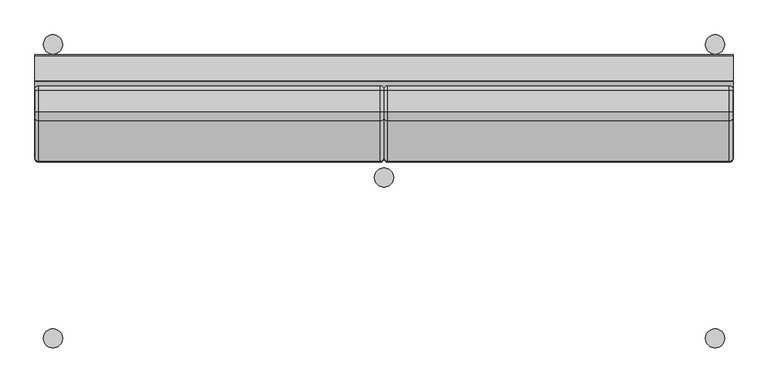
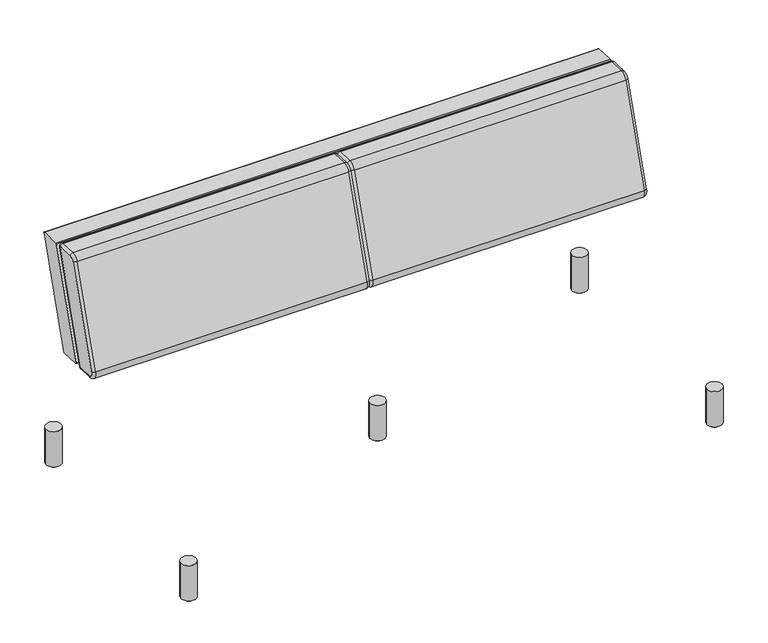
"""IFC4 building model written with IfcOpenShell, lengths in millimetres: furniture geometry, Krug-Amelio-Sleep_Sofa : AME6SL74FALS2."""

from ifc_helpers import new_model, si_unit, point, frame, frame_2d, origin, place, context, project, spatial, polyline, circle_curve, ellipse_curve, trimmed, segment, composite_curve, outline, extrude, source, transform, mapped, element, save
from ifc_brep_helpers import plane_surface, cylinder_surface, revolved_surface, advanced_brep


def furniture_d6359fc4(model_context):
    return source(origin(), model_context, "Body", "SolidModel", [
        advanced_brep(
        [(943.9358697, -451.0753328, 10.4207023), (935.6641303, -451.0753328, 10.4207023), (939.8, -451.0753328, 10.4207023), (943.9358697, -451.0753328, 6.7592646), (935.6641303, -451.0753328, 6.7592646), (952.931508, -451.0753328, 3.48512), (926.668492, -451.0753328, 3.48512), (951.663028, -451.0753328, 0.0), (927.936972, -451.0753328, 0.0), (939.8, -451.0753328, 0.0)],
        [
            (0, 1, circle_curve(frame((939.8, -451.0753328, 10.4207023), z_axis=(0.0, 0.0, 1.0), x_axis=(-1.0, 0.0, 0.0)), 4.1358697)),
            (1, 2),
            (2, 0),
            (1, 0, circle_curve(frame((939.8, -451.0753328, 10.4207023), z_axis=(0.0, 0.0, 1.0), x_axis=(-1.0, 0.0, 0.0)), 4.1358697)),
            (3, 4, circle_curve(frame((939.8, -451.0753328, 6.7592646), z_axis=(0.0, 0.0, 1.0), x_axis=(-1.0, 0.0, 0.0)), 4.1358697)),
            (4, 1),
            (0, 3),
            (4, 3, circle_curve(frame((939.8, -451.0753328, 6.7592646), z_axis=(0.0, 0.0, 1.0), x_axis=(-1.0, 0.0, 0.0)), 4.1358697)),
            (5, 6, circle_curve(frame((939.8, -451.0753328, 3.48512), z_axis=(0.0, 0.0, 1.0), x_axis=(-1.0, 0.0, 0.0)), 13.131508)),
            (6, 4),
            (3, 5),
            (6, 5, circle_curve(frame((939.8, -451.0753328, 3.48512), z_axis=(0.0, 0.0, 1.0), x_axis=(-1.0, 0.0, 0.0)), 13.131508)),
            (7, 8, circle_curve(frame((939.8, -451.0753328, 0.0), z_axis=(0.0, 0.0, 1.0), x_axis=(-1.0, 0.0, 0.0)), 11.863028)),
            (8, 6),
            (5, 7),
            (8, 7, circle_curve(frame((939.8, -451.0753328, 0.0), z_axis=(0.0, 0.0, 1.0), x_axis=(-1.0, 0.0, 0.0)), 11.863028)),
            (9, 8),
            (7, 9),
        ],
        [
            plane_surface(frame((939.8, -451.0753328, 10.4207023), z_axis=(0.0, 0.0, 1.0), x_axis=(-1.0, 0.0, 0.0))),
            cylinder_surface(frame((939.8, -451.0753328, 4.0728589), z_axis=(0.0, 0.0, -1.0), x_axis=(-1.0, 0.0, 0.0)), 4.1358697),
            revolved_surface(polyline([(935.6641303, -451.0753328, 6.7592646), (926.668492, -451.0753328, 3.48512)]), (939.8, -451.0753328, 4.0728589), (0.0, 0.0, -1.0)),
            revolved_surface(polyline([(926.668492, -451.0753328, 3.48512), (927.936972, -451.0753328, 0.0)]), (939.8, -451.0753328, 4.0728589), (0.0, 0.0, -1.0)),
            plane_surface(frame((939.8, -451.0753328, 0.0), z_axis=(0.0, 0.0, -1.0), x_axis=(-1.0, 0.0, 0.0))),
        ],
        [
            (0, [[1, 2, 3]]),
            (0, [[4, -3, -2]]),
            (1, [[5, 6, -1, 7]]),
            (1, [[8, -7, -4, -6]]),
            (2, [[9, 10, -5, 11]]),
            (2, [[12, -11, -8, -10]]),
            (3, [[13, 14, -9, 15]]),
            (3, [[16, -15, -12, -14]]),
            (4, [[17, -13, 18]]),
            (4, [[-18, -16, -17]]),
        ],
    ),
        extrude(outline(composite_curve([segment(trimmed(circle_curve(frame_2d((939.8, -451.1316432)), 25.4), [point((914.4, -451.1316432))], [point((965.2, -451.1316432))], False, "CARTESIAN"), True, "CONTINUOUS"), segment(trimmed(circle_curve(frame_2d((939.8, -451.1316432)), 25.4), [point((965.2, -451.1316432))], [point((914.4, -451.1316432))], False, "CARTESIAN"), True, "CONTINUOUS")], self_intersect=False)), frame((0.0, 0.0, 10.4207023), z_axis=(0.0, 0.0, 1.0), x_axis=(1.0, 0.0, 0.0)), (0.0, 0.0, 1.0), 124.5167977),
        advanced_brep(
        [(1820.2360983, -98.4406846, 10.4207023), (1811.9643589, -98.4406846, 10.4207023), (1816.1002286, -98.4406846, 10.4207023), (1820.2360983, -98.4406846, 6.7592646), (1811.9643589, -98.4406846, 6.7592646), (1829.2317366, -98.4406846, 3.48512), (1802.9687206, -98.4406846, 3.48512), (1827.9632566, -98.4406846, 0.0), (1804.2372006, -98.4406846, 0.0), (1816.1002286, -98.4406846, 0.0)],
        [
            (0, 1, circle_curve(frame((1816.1002286, -98.4406846, 10.4207023), z_axis=(0.0, 0.0, 1.0), x_axis=(-1.0, 0.0, 0.0)), 4.1358697)),
            (1, 2),
            (2, 0),
            (1, 0, circle_curve(frame((1816.1002286, -98.4406846, 10.4207023), z_axis=(0.0, 0.0, 1.0), x_axis=(-1.0, 0.0, 0.0)), 4.1358697)),
            (3, 4, circle_curve(frame((1816.1002286, -98.4406846, 6.7592646), z_axis=(0.0, 0.0, 1.0), x_axis=(-1.0, 0.0, 0.0)), 4.1358697)),
            (4, 1),
            (0, 3),
            (4, 3, circle_curve(frame((1816.1002286, -98.4406846, 6.7592646), z_axis=(0.0, 0.0, 1.0), x_axis=(-1.0, 0.0, 0.0)), 4.1358697)),
            (5, 6, circle_curve(frame((1816.1002286, -98.4406846, 3.48512), z_axis=(0.0, 0.0, 1.0), x_axis=(-1.0, 0.0, 0.0)), 13.131508)),
            (6, 4),
            (3, 5),
            (6, 5, circle_curve(frame((1816.1002286, -98.4406846, 3.48512), z_axis=(0.0, 0.0, 1.0), x_axis=(-1.0, 0.0, 0.0)), 13.131508)),
            (7, 8, circle_curve(frame((1816.1002286, -98.4406846, 0.0), z_axis=(0.0, 0.0, 1.0), x_axis=(-1.0, 0.0, 0.0)), 11.863028)),
            (8, 6),
            (5, 7),
            (8, 7, circle_curve(frame((1816.1002286, -98.4406846, 0.0), z_axis=(0.0, 0.0, 1.0), x_axis=(-1.0, 0.0, 0.0)), 11.863028)),
            (9, 8),
            (7, 9),
        ],
        [
            plane_surface(frame((1816.1002286, -98.4406846, 10.4207023), z_axis=(0.0, 0.0, 1.0), x_axis=(-1.0, 0.0, 0.0))),
            cylinder_surface(frame((1816.1002286, -98.4406846, 4.0728589), z_axis=(0.0, 0.0, -1.0), x_axis=(-1.0, 0.0, 0.0)), 4.1358697),
            revolved_surface(polyline([(1811.9643589, -98.4406846, 6.7592646), (1802.9687206, -98.4406846, 3.48512)]), (1816.1002286, -98.4406846, 4.0728589), (0.0, 0.0, -1.0)),
            revolved_surface(polyline([(1802.9687206, -98.4406846, 3.48512), (1804.2372006, -98.4406846, 0.0)]), (1816.1002286, -98.4406846, 4.0728589), (0.0, 0.0, -1.0)),
            plane_surface(frame((1816.1002286, -98.4406846, 0.0), z_axis=(0.0, 0.0, -1.0), x_axis=(-1.0, 0.0, 0.0))),
        ],
        [
            (0, [[1, 2, 3]]),
            (0, [[4, -3, -2]]),
            (1, [[5, 6, -1, 7]]),
            (1, [[8, -7, -4, -6]]),
            (2, [[9, 10, -5, 11]]),
            (2, [[12, -11, -8, -10]]),
            (3, [[13, 14, -9, 15]]),
            (3, [[16, -15, -12, -14]]),
            (4, [[17, -13, 18]]),
            (4, [[-18, -16, -17]]),
        ],
    ),
        extrude(outline(composite_curve([segment(trimmed(circle_curve(frame_2d((1816.1002286, -98.4969949)), 25.4), [point((1790.7002286, -98.4969949))], [point((1841.5002286, -98.4969949))], False, "CARTESIAN"), True, "CONTINUOUS"), segment(trimmed(circle_curve(frame_2d((1816.1002286, -98.4969949)), 25.4), [point((1841.5002286, -98.4969949))], [point((1790.7002286, -98.4969949))], False, "CARTESIAN"), True, "CONTINUOUS")], self_intersect=False)), frame((0.0, 0.0, 10.4207023), z_axis=(0.0, 0.0, 1.0), x_axis=(1.0, 0.0, 0.0)), (0.0, 0.0, 1.0), 124.5167977),
        advanced_brep(
        [(67.6356411, -98.4406846, 10.4207023), (59.3639017, -98.4406846, 10.4207023), (63.4997714, -98.4406846, 10.4207023), (67.6356411, -98.4406846, 6.7592646), (59.3639017, -98.4406846, 6.7592646), (76.6312794, -98.4406846, 3.48512), (50.3682634, -98.4406846, 3.48512), (75.3627994, -98.4406846, 0.0), (51.6367434, -98.4406846, 0.0), (63.4997714, -98.4406846, 0.0)],
        [
            (0, 1, circle_curve(frame((63.4997714, -98.4406846, 10.4207023), z_axis=(0.0, 0.0, 1.0), x_axis=(-1.0, 0.0, 0.0)), 4.1358697)),
            (1, 2),
            (2, 0),
            (1, 0, circle_curve(frame((63.4997714, -98.4406846, 10.4207023), z_axis=(0.0, 0.0, 1.0), x_axis=(-1.0, 0.0, 0.0)), 4.1358697)),
            (3, 4, circle_curve(frame((63.4997714, -98.4406846, 6.7592646), z_axis=(0.0, 0.0, 1.0), x_axis=(-1.0, 0.0, 0.0)), 4.1358697)),
            (4, 1),
            (0, 3),
            (4, 3, circle_curve(frame((63.4997714, -98.4406846, 6.7592646), z_axis=(0.0, 0.0, 1.0), x_axis=(-1.0, 0.0, 0.0)), 4.1358697)),
            (5, 6, circle_curve(frame((63.4997714, -98.4406846, 3.48512), z_axis=(0.0, 0.0, 1.0), x_axis=(-1.0, 0.0, 0.0)), 13.131508)),
            (6, 4),
            (3, 5),
            (6, 5, circle_curve(frame((63.4997714, -98.4406846, 3.48512), z_axis=(0.0, 0.0, 1.0), x_axis=(-1.0, 0.0, 0.0)), 13.131508)),
            (7, 8, circle_curve(frame((63.4997714, -98.4406846, 0.0), z_axis=(0.0, 0.0, 1.0), x_axis=(-1.0, 0.0, 0.0)), 11.863028)),
            (8, 6),
            (5, 7),
            (8, 7, circle_curve(frame((63.4997714, -98.4406846, 0.0), z_axis=(0.0, 0.0, 1.0), x_axis=(-1.0, 0.0, 0.0)), 11.863028)),
            (9, 8),
            (7, 9),
        ],
        [
            plane_surface(frame((63.4997714, -98.4406846, 10.4207023), z_axis=(0.0, 0.0, 1.0), x_axis=(-1.0, 0.0, 0.0))),
            cylinder_surface(frame((63.4997714, -98.4406846, 4.0728589), z_axis=(0.0, 0.0, -1.0), x_axis=(-1.0, 0.0, 0.0)), 4.1358697),
            revolved_surface(polyline([(59.3639017, -98.4406846, 6.7592646), (50.3682634, -98.4406846, 3.48512)]), (63.4997714, -98.4406846, 4.0728589), (0.0, 0.0, -1.0)),
            revolved_surface(polyline([(50.3682634, -98.4406846, 3.48512), (51.6367434, -98.4406846, 0.0)]), (63.4997714, -98.4406846, 4.0728589), (0.0, 0.0, -1.0)),
            plane_surface(frame((63.4997714, -98.4406846, 0.0), z_axis=(0.0, 0.0, -1.0), x_axis=(-1.0, 0.0, 0.0))),
        ],
        [
            (0, [[1, 2, 3]]),
            (0, [[4, -3, -2]]),
            (1, [[5, 6, -1, 7]]),
            (1, [[8, -7, -4, -6]]),
            (2, [[9, 10, -5, 11]]),
            (2, [[12, -11, -8, -10]]),
            (3, [[13, 14, -9, 15]]),
            (3, [[16, -15, -12, -14]]),
            (4, [[17, -13, 18]]),
            (4, [[-18, -16, -17]]),
        ],
    ),
        extrude(outline(composite_curve([segment(trimmed(circle_curve(frame_2d((63.4997714, -98.4969949)), 25.4), [point((38.0997714, -98.4969949))], [point((88.8997714, -98.4969949))], False, "CARTESIAN"), True, "CONTINUOUS"), segment(trimmed(circle_curve(frame_2d((63.4997714, -98.4969949)), 25.4), [point((88.8997714, -98.4969949))], [point((38.0997714, -98.4969949))], False, "CARTESIAN"), True, "CONTINUOUS")], self_intersect=False)), frame((0.0, 0.0, 10.4207023), z_axis=(0.0, 0.0, 1.0), x_axis=(1.0, 0.0, 0.0)), (0.0, 0.0, 1.0), 124.5167977),
        advanced_brep(
        [(1820.2360983, -877.4358283, 10.4207023), (1811.9643589, -877.4358283, 10.4207023), (1816.1002286, -877.4358283, 10.4207023), (1820.2360983, -877.4358283, 6.7592646), (1811.9643589, -877.4358283, 6.7592646), (1829.2317366, -877.4358283, 3.48512), (1802.9687206, -877.4358283, 3.48512), (1827.9632566, -877.4358283, 0.0), (1804.2372006, -877.4358283, 0.0), (1816.1002286, -877.4358283, 0.0)],
        [
            (0, 1, circle_curve(frame((1816.1002286, -877.4358283, 10.4207023), z_axis=(0.0, 0.0, 1.0), x_axis=(-1.0, 0.0, 0.0)), 4.1358697)),
            (1, 2),
            (2, 0),
            (1, 0, circle_curve(frame((1816.1002286, -877.4358283, 10.4207023), z_axis=(0.0, 0.0, 1.0), x_axis=(-1.0, 0.0, 0.0)), 4.1358697)),
            (3, 4, circle_curve(frame((1816.1002286, -877.4358283, 6.7592646), z_axis=(0.0, 0.0, 1.0), x_axis=(-1.0, 0.0, 0.0)), 4.1358697)),
            (4, 1),
            (0, 3),
            (4, 3, circle_curve(frame((1816.1002286, -877.4358283, 6.7592646), z_axis=(0.0, 0.0, 1.0), x_axis=(-1.0, 0.0, 0.0)), 4.1358697)),
            (5, 6, circle_curve(frame((1816.1002286, -877.4358283, 3.48512), z_axis=(0.0, 0.0, 1.0), x_axis=(-1.0, 0.0, 0.0)), 13.131508)),
            (6, 4),
            (3, 5),
            (6, 5, circle_curve(frame((1816.1002286, -877.4358283, 3.48512), z_axis=(0.0, 0.0, 1.0), x_axis=(-1.0, 0.0, 0.0)), 13.131508)),
            (7, 8, circle_curve(frame((1816.1002286, -877.4358283, 0.0), z_axis=(0.0, 0.0, 1.0), x_axis=(-1.0, 0.0, 0.0)), 11.863028)),
            (8, 6),
            (5, 7),
            (8, 7, circle_curve(frame((1816.1002286, -877.4358283, 0.0), z_axis=(0.0, 0.0, 1.0), x_axis=(-1.0, 0.0, 0.0)), 11.863028)),
            (9, 8),
            (7, 9),
        ],
        [
            plane_surface(frame((1816.1002286, -877.4358283, 10.4207023), z_axis=(0.0, 0.0, 1.0), x_axis=(-1.0, 0.0, 0.0))),
            cylinder_surface(frame((1816.1002286, -877.4358283, 4.0728589), z_axis=(0.0, 0.0, -1.0), x_axis=(-1.0, 0.0, 0.0)), 4.1358697),
            revolved_surface(polyline([(1811.9643589, -877.4358283, 6.7592646), (1802.9687206, -877.4358283, 3.48512)]), (1816.1002286, -877.4358283, 4.0728589), (0.0, 0.0, -1.0)),
            revolved_surface(polyline([(1802.9687206, -877.4358283, 3.48512), (1804.2372006, -877.4358283, 0.0)]), (1816.1002286, -877.4358283, 4.0728589), (0.0, 0.0, -1.0)),
            plane_surface(frame((1816.1002286, -877.4358283, 0.0), z_axis=(0.0, 0.0, -1.0), x_axis=(-1.0, 0.0, 0.0))),
        ],
        [
            (0, [[1, 2, 3]]),
            (0, [[4, -3, -2]]),
            (1, [[5, 6, -1, 7]]),
            (1, [[8, -7, -4, -6]]),
            (2, [[9, 10, -5, 11]]),
            (2, [[12, -11, -8, -10]]),
            (3, [[13, 14, -9, 15]]),
            (3, [[16, -15, -12, -14]]),
            (4, [[17, -13, 18]]),
            (4, [[-18, -16, -17]]),
        ],
    ),
        extrude(outline(composite_curve([segment(trimmed(circle_curve(frame_2d((1816.1002286, -877.4921386)), 25.4), [point((1790.7002286, -877.4921386))], [point((1841.5002286, -877.4921386))], False, "CARTESIAN"), True, "CONTINUOUS"), segment(trimmed(circle_curve(frame_2d((1816.1002286, -877.4921386)), 25.4), [point((1841.5002286, -877.4921386))], [point((1790.7002286, -877.4921386))], False, "CARTESIAN"), True, "CONTINUOUS")], self_intersect=False)), frame((0.0, 0.0, 10.4207023), z_axis=(0.0, 0.0, 1.0), x_axis=(1.0, 0.0, 0.0)), (0.0, 0.0, 1.0), 124.5167977),
        advanced_brep(
        [(67.6356411, -877.4358283, 10.4207023), (59.3639017, -877.4358283, 10.4207023), (63.4997714, -877.4358283, 10.4207023), (67.6356411, -877.4358283, 6.7592646), (59.3639017, -877.4358283, 6.7592646), (76.6312794, -877.4358283, 3.48512), (50.3682634, -877.4358283, 3.48512), (75.3627994, -877.4358283, 0.0), (51.6367434, -877.4358283, 0.0), (63.4997714, -877.4358283, 0.0)],
        [
            (0, 1, circle_curve(frame((63.4997714, -877.4358283, 10.4207023), z_axis=(0.0, 0.0, 1.0), x_axis=(-1.0, 0.0, 0.0)), 4.1358697)),
            (1, 2),
            (2, 0),
            (1, 0, circle_curve(frame((63.4997714, -877.4358283, 10.4207023), z_axis=(0.0, 0.0, 1.0), x_axis=(-1.0, 0.0, 0.0)), 4.1358697)),
            (3, 4, circle_curve(frame((63.4997714, -877.4358283, 6.7592646), z_axis=(0.0, 0.0, 1.0), x_axis=(-1.0, 0.0, 0.0)), 4.1358697)),
            (4, 1),
            (0, 3),
            (4, 3, circle_curve(frame((63.4997714, -877.4358283, 6.7592646), z_axis=(0.0, 0.0, 1.0), x_axis=(-1.0, 0.0, 0.0)), 4.1358697)),
            (5, 6, circle_curve(frame((63.4997714, -877.4358283, 3.48512), z_axis=(0.0, 0.0, 1.0), x_axis=(-1.0, 0.0, 0.0)), 13.131508)),
            (6, 4),
            (3, 5),
            (6, 5, circle_curve(frame((63.4997714, -877.4358283, 3.48512), z_axis=(0.0, 0.0, 1.0), x_axis=(-1.0, 0.0, 0.0)), 13.131508)),
            (7, 8, circle_curve(frame((63.4997714, -877.4358283, 0.0), z_axis=(0.0, 0.0, 1.0), x_axis=(-1.0, 0.0, 0.0)), 11.863028)),
            (8, 6),
            (5, 7),
            (8, 7, circle_curve(frame((63.4997714, -877.4358283, 0.0), z_axis=(0.0, 0.0, 1.0), x_axis=(-1.0, 0.0, 0.0)), 11.863028)),
            (9, 8),
            (7, 9),
        ],
        [
            plane_surface(frame((63.4997714, -877.4358283, 10.4207023), z_axis=(0.0, 0.0, 1.0), x_axis=(-1.0, 0.0, 0.0))),
            cylinder_surface(frame((63.4997714, -877.4358283, 4.0728589), z_axis=(0.0, 0.0, -1.0), x_axis=(-1.0, 0.0, 0.0)), 4.1358697),
            revolved_surface(polyline([(59.3639017, -877.4358283, 6.7592646), (50.3682634, -877.4358283, 3.48512)]), (63.4997714, -877.4358283, 4.0728589), (0.0, 0.0, -1.0)),
            revolved_surface(polyline([(50.3682634, -877.4358283, 3.48512), (51.6367434, -877.4358283, 0.0)]), (63.4997714, -877.4358283, 4.0728589), (0.0, 0.0, -1.0)),
            plane_surface(frame((63.4997714, -877.4358283, 0.0), z_axis=(0.0, 0.0, -1.0), x_axis=(-1.0, 0.0, 0.0))),
        ],
        [
            (0, [[1, 2, 3]]),
            (0, [[4, -3, -2]]),
            (1, [[5, 6, -1, 7]]),
            (1, [[8, -7, -4, -6]]),
            (2, [[9, 10, -5, 11]]),
            (2, [[12, -11, -8, -10]]),
            (3, [[13, 14, -9, 15]]),
            (3, [[16, -15, -12, -14]]),
            (4, [[17, -13, 18]]),
            (4, [[-18, -16, -17]]),
        ],
    ),
        extrude(outline(composite_curve([segment(trimmed(circle_curve(frame_2d((63.4997714, -877.4921386)), 25.4), [point((38.0997714, -877.4921386))], [point((88.8997714, -877.4921386))], False, "CARTESIAN"), True, "CONTINUOUS"), segment(trimmed(circle_curve(frame_2d((63.4997714, -877.4921386)), 25.4), [point((88.8997714, -877.4921386))], [point((38.0997714, -877.4921386))], False, "CARTESIAN"), True, "CONTINUOUS")], self_intersect=False)), frame((0.0, 0.0, 10.4207023), z_axis=(0.0, 0.0, 1.0), x_axis=(1.0, 0.0, 0.0)), (0.0, 0.0, 1.0), 124.5167977),
        extrude(outline(composite_curve([segment(trimmed(circle_curve(frame_2d((-384.9569021, 521.5090368)), 15.875), [point((-385.5109316, 505.6437075))], [point((-400.0354014, 526.4743652))], False, "CARTESIAN"), True, "CONTINUOUS"), segment(polyline([(-400.0354014, 526.4743652), (-293.324741, 850.528788)]), True, "CONTINUOUS"), segment(trimmed(circle_curve(frame_2d((-278.2462417, 845.5634597)), 15.875), [point((-293.324741, 850.528788))], [point((-277.6922122, 861.4287891))], False, "CARTESIAN"), True, "CONTINUOUS"), segment(polyline([(-277.6922122, 861.4287891), (-221.1231473, 859.4533538)]), True, "CONTINUOUS"), segment(trimmed(circle_curve(frame_2d((-221.2339532, 856.2802879)), 3.175), [point((-221.1231473, 859.4533538))], [point((-218.2182534, 855.2872223))], False, "CARTESIAN"), True, "CONTINUOUS"), segment(polyline([(-218.2182534, 855.2872223), (-333.2030487, 506.1062561)]), True, "CONTINUOUS"), segment(trimmed(circle_curve(frame_2d((-336.2187486, 507.0993218)), 3.175), [point((-333.2030487, 506.1062561))], [point((-336.3295545, 503.9262559))], False, "CARTESIAN"), True, "CONTINUOUS"), segment(polyline([(-336.3295545, 503.9262559), (-385.5109316, 505.6437075)]), True, "CONTINUOUS")], self_intersect=False)), frame((15.8748667, 0.0, 0.0), z_axis=(1.0, 0.0, 0.0), x_axis=(0.0, 1.0, 0.0)), (0.0, 0.0, 1.0), 1847.8502667),
        advanced_brep(
        [(1854.1958852, -336.6619722, 494.4070583), (1854.1958852, -324.1559492, 503.1270591), (1863.7208852, -333.2030487, 506.1062561), (1863.7208852, -336.3295545, 503.9262559), (949.325, -336.6619722, 494.4070583), (949.325, -324.1559492, 503.1270591), (939.8, -336.4021086, 501.8485787), (939.8, -331.2284125, 505.4560112), (930.275, -336.6619722, 494.4070583), (930.275, -324.1559492, 503.1270591), (25.3998667, -336.6619722, 494.4070583), (25.3998667, -324.1559492, 503.1270591), (15.8748667, -336.3295545, 503.9262559), (15.8748667, -333.2030487, 506.1062561), (1863.7208852, -385.5109316, 505.6437075), (1854.1958852, -385.8433493, 496.1245098), (949.325, -385.8433493, 496.1245098), (939.8, -385.5834857, 503.5660302), (930.275, -385.8433493, 496.1245098), (25.3998667, -385.8433493, 496.1245098), (15.8748667, -385.5109316, 505.6437075), (1854.1958852, -409.0825009, 529.4535622), (1863.7208852, -400.0354014, 526.4743652), (949.325, -409.0825009, 529.4535622), (939.8, -402.0100376, 527.1246101), (930.275, -409.0825009, 529.4535622), (25.3998667, -409.0825009, 529.4535622), (15.8748667, -400.0354014, 526.4743652), (1863.7208852, -293.324741, 850.528788), (1854.1958852, -302.3718405, 853.5079851), (949.325, -302.3718405, 853.5079851), (939.8, -295.2993772, 851.179033), (930.275, -302.3718405, 853.5079851), (25.3998667, -302.3718405, 853.5079851), (15.8748667, -293.324741, 850.528788), (1854.1958852, -277.3597945, 870.9479867), (1863.7208852, -277.6922122, 861.4287891), (949.325, -277.3597945, 870.9479867), (939.8, -277.6196581, 863.5064663), (930.275, -277.3597945, 870.9479867), (25.3998667, -277.3597945, 870.9479867), (15.8748667, -277.6922122, 861.4287891), (1863.7208852, -221.1231473, 859.4533538), (1854.1958852, -220.7907296, 868.9725514), (949.325, -220.7907296, 868.9725514), (939.8, -221.0505933, 861.5310311), (930.275, -220.7907296, 868.9725514), (25.3998667, -220.7907296, 868.9725514), (15.8748667, -221.1231473, 859.4533538), (1854.1958852, -209.1711539, 852.3080252), (1863.7208852, -218.2182534, 855.2872223), (949.325, -209.1711539, 852.3080252), (939.8, -216.2436171, 854.6369773), (930.275, -209.1711539, 852.3080252), (25.3998667, -209.1711539, 852.3080252), (15.8748667, -218.2182534, 855.2872223)],
        [
            (0, 1, circle_curve(frame((1854.1958852, -336.2187486, 507.0993218), z_axis=(1.0, 0.0, 0.0), x_axis=(0.0, 0.9498267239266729, -0.31277658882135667)), 12.7)),
            (1, 2, circle_curve(frame((1854.1958852, -333.2030487, 506.1062561), z_axis=(0.0, -0.31277658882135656, -0.9498267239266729), x_axis=(0.0, 0.9498267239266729, -0.31277658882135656)), 9.525)),
            (2, 3, circle_curve(frame((1863.7208852, -336.2187486, 507.0993218), z_axis=(-1.0, 0.0, 0.0), x_axis=(0.0, 0.9498267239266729, -0.31277658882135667)), 3.175)),
            (3, 0, circle_curve(frame((1854.1958852, -336.3295545, 503.9262559), z_axis=(0.0, 0.9993908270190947, -0.03489949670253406), x_axis=(0.0, -0.03489949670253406, -0.9993908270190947)), 9.525)),
            (4, 5, circle_curve(frame((949.325, -336.2187486, 507.0993218), z_axis=(1.0, 0.0, 0.0), x_axis=(0.0, 0.9498267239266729, -0.31277658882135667)), 12.7)),
            (5, 1),
            (0, 4),
            (6, 7, circle_curve(frame((939.8, -336.2187486, 507.0993218), z_axis=(1.0, 0.0, 0.0), x_axis=(0.0, 0.9498267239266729, -0.31277658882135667)), 5.2539437)),
            (7, 5, circle_curve(frame((949.325, -333.4787086, 506.1970305), z_axis=(0.0, -0.31277658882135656, -0.9498267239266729), x_axis=(0.0, 0.9498267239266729, -0.31277658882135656)), 9.8152212)),
            (4, 6, circle_curve(frame((949.325, -336.3194259, 504.2163003), z_axis=(0.0, 0.9993908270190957, -0.03489949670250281), x_axis=(0.0, -0.03489949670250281, -0.9993908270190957)), 9.8152212)),
            (8, 9, circle_curve(frame((930.275, -336.2187486, 507.0993218), z_axis=(1.0, 0.0, 0.0), x_axis=(0.0, 0.9498267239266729, -0.31277658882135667)), 12.7)),
            (9, 7, circle_curve(frame((930.275, -333.4787086, 506.1970305), z_axis=(0.0, -0.31277658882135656, -0.9498267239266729), x_axis=(0.0, 0.9498267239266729, -0.31277658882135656)), 9.8152212)),
            (6, 8, circle_curve(frame((930.275, -336.3194259, 504.2163003), z_axis=(0.0, 0.9993908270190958, -0.034899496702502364), x_axis=(0.0, -0.034899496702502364, -0.9993908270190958)), 9.8152212)),
            (10, 11, circle_curve(frame((25.3998667, -336.2187486, 507.0993218), z_axis=(1.0, 0.0, 0.0), x_axis=(0.0, 0.9498267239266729, -0.31277658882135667)), 12.7)),
            (11, 9),
            (8, 10),
            (12, 13, circle_curve(frame((15.8748667, -336.2187486, 507.0993218), z_axis=(1.0, 0.0, 0.0), x_axis=(0.0, 0.9498267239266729, -0.31277658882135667)), 3.175)),
            (13, 11, circle_curve(frame((25.3998667, -333.2030487, 506.1062561), z_axis=(0.0, -0.31277658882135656, -0.9498267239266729), x_axis=(0.0, 0.9498267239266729, -0.31277658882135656)), 9.525)),
            (10, 12, circle_curve(frame((25.3998667, -336.3295545, 503.9262559), z_axis=(0.0, 0.9993908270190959, -0.03489949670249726), x_axis=(0.0, -0.03489949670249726, -0.9993908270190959)), 9.525)),
            (2, 13),
            (12, 3),
            (3, 14),
            (14, 15, circle_curve(frame((1854.1958852, -385.5109316, 505.6437075), z_axis=(0.0, 0.9993908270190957, -0.03489949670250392), x_axis=(0.0, -0.03489949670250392, -0.9993908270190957)), 9.525)),
            (15, 0),
            (15, 16),
            (16, 4),
            (16, 17, circle_curve(frame((949.325, -385.500803, 505.9337519), z_axis=(0.0, 0.9993908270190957, -0.03489949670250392), x_axis=(0.0, -0.03489949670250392, -0.9993908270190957)), 9.8152212)),
            (17, 6),
            (17, 18, circle_curve(frame((930.275, -385.500803, 505.9337519), z_axis=(0.0, 0.9993908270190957, -0.03489949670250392), x_axis=(0.0, -0.03489949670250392, -0.9993908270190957)), 9.8152212)),
            (18, 8),
            (18, 19),
            (19, 10),
            (19, 20, circle_curve(frame((25.3998667, -385.5109316, 505.6437075), z_axis=(0.0, 0.9993908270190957, -0.03489949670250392), x_axis=(0.0, -0.03489949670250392, -0.9993908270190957)), 9.525)),
            (20, 12),
            (20, 14),
            (21, 15, circle_curve(frame((1854.1958852, -384.9569021, 521.5090368), z_axis=(1.0, 0.0, 0.0), x_axis=(0.0, -0.03489949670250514, -0.9993908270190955)), 25.4)),
            (14, 22, circle_curve(frame((1863.7208852, -384.9569021, 521.5090368), z_axis=(-1.0, 0.0, 0.0), x_axis=(0.0, -0.03489949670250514, -0.9993908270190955)), 15.875)),
            (22, 21, circle_curve(frame((1854.1958852, -400.0354014, 526.4743652), z_axis=(0.0, -0.31277658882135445, -0.9498267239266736), x_axis=(0.0, -0.9498267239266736, 0.31277658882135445)), 9.525)),
            (23, 16, circle_curve(frame((949.325, -384.9569021, 521.5090368), z_axis=(1.0, 0.0, 0.0), x_axis=(0.0, -0.03489949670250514, -0.9993908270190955)), 25.4)),
            (21, 23),
            (24, 17, circle_curve(frame((939.8, -384.9569021, 521.5090368), z_axis=(1.0, 0.0, 0.0), x_axis=(0.0, -0.03489949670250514, -0.9993908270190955)), 17.9539437)),
            (23, 24, circle_curve(frame((949.325, -399.7597415, 526.3835908), z_axis=(0.0, -0.3127765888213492, -0.9498267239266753), x_axis=(0.0, -0.9498267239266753, 0.3127765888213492)), 9.8152212)),
            (25, 18, circle_curve(frame((930.275, -384.9569021, 521.5090368), z_axis=(1.0, 0.0, 0.0), x_axis=(0.0, -0.03489949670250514, -0.9993908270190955)), 25.4)),
            (24, 25, circle_curve(frame((930.275, -399.7597415, 526.3835908), z_axis=(0.0, -0.3127765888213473, -0.9498267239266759), x_axis=(0.0, -0.9498267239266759, 0.3127765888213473)), 9.8152212)),
            (26, 19, circle_curve(frame((25.3998667, -384.9569021, 521.5090368), z_axis=(1.0, 0.0, 0.0), x_axis=(0.0, -0.03489949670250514, -0.9993908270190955)), 25.4)),
            (25, 26),
            (27, 20, circle_curve(frame((15.8748667, -384.9569021, 521.5090368), z_axis=(1.0, 0.0, 0.0), x_axis=(0.0, -0.03489949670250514, -0.9993908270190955)), 15.875)),
            (26, 27, circle_curve(frame((25.3998667, -400.0354014, 526.4743652), z_axis=(0.0, -0.31277658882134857, -0.9498267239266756), x_axis=(0.0, -0.9498267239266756, 0.31277658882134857)), 9.525)),
            (27, 22),
            (22, 28),
            (28, 29, circle_curve(frame((1854.1958852, -293.324741, 850.528788), z_axis=(0.0, -0.31277658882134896, -0.9498267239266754), x_axis=(0.0, -0.9498267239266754, 0.31277658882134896)), 9.525)),
            (29, 21),
            (29, 30),
            (30, 23),
            (30, 31, circle_curve(frame((949.325, -293.0490811, 850.4380136), z_axis=(0.0, -0.31277658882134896, -0.9498267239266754), x_axis=(0.0, -0.9498267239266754, 0.31277658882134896)), 9.8152212)),
            (31, 24),
            (31, 32, circle_curve(frame((930.275, -293.0490811, 850.4380136), z_axis=(0.0, -0.31277658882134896, -0.9498267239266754), x_axis=(0.0, -0.9498267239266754, 0.31277658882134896)), 9.8152212)),
            (32, 25),
            (32, 33),
            (33, 26),
            (33, 34, circle_curve(frame((25.3998667, -293.324741, 850.528788), z_axis=(0.0, -0.31277658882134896, -0.9498267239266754), x_axis=(0.0, -0.9498267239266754, 0.31277658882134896)), 9.525)),
            (34, 27),
            (34, 28),
            (35, 29, circle_curve(frame((1854.1958852, -278.2462417, 845.5634597), z_axis=(1.0, 0.0, 0.0), x_axis=(0.0, -0.9498267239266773, 0.31277658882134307)), 25.4)),
            (28, 36, circle_curve(frame((1863.7208852, -278.2462417, 845.5634597), z_axis=(-1.0, 0.0, 0.0), x_axis=(0.0, -0.9498267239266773, 0.31277658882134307)), 15.875)),
            (36, 35, circle_curve(frame((1854.1958852, -277.6922122, 861.4287891), z_axis=(0.0, -0.9993908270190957, 0.034899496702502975), x_axis=(0.0, 0.034899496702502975, 0.9993908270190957)), 9.525)),
            (37, 30, circle_curve(frame((949.325, -278.2462417, 845.5634597), z_axis=(1.0, 0.0, 0.0), x_axis=(0.0, -0.9498267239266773, 0.31277658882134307)), 25.4)),
            (35, 37),
            (38, 31, circle_curve(frame((939.8, -278.2462417, 845.5634597), z_axis=(1.0, 0.0, 0.0), x_axis=(0.0, -0.9498267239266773, 0.31277658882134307)), 17.9539437)),
            (37, 38, circle_curve(frame((949.325, -277.7023408, 861.1387447), z_axis=(0.0, -0.9993908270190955, 0.03489949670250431), x_axis=(0.0, 0.03489949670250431, 0.9993908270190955)), 9.8152212)),
            (39, 32, circle_curve(frame((930.275, -278.2462417, 845.5634597), z_axis=(1.0, 0.0, 0.0), x_axis=(0.0, -0.9498267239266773, 0.31277658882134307)), 25.4)),
            (38, 39, circle_curve(frame((930.275, -277.7023408, 861.1387447), z_axis=(0.0, -0.9993908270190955, 0.034899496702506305), x_axis=(0.0, 0.034899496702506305, 0.9993908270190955)), 9.8152212)),
            (40, 33, circle_curve(frame((25.3998667, -278.2462417, 845.5634597), z_axis=(1.0, 0.0, 0.0), x_axis=(0.0, -0.9498267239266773, 0.31277658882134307)), 25.4)),
            (39, 40),
            (41, 34, circle_curve(frame((15.8748667, -278.2462417, 845.5634597), z_axis=(1.0, 0.0, 0.0), x_axis=(0.0, -0.9498267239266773, 0.31277658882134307)), 15.875)),
            (40, 41, circle_curve(frame((25.3998667, -277.6922122, 861.4287891), z_axis=(0.0, -0.9993908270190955, 0.034899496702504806), x_axis=(0.0, 0.034899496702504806, 0.9993908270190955)), 9.525)),
            (41, 36),
            (36, 42),
            (42, 43, circle_curve(frame((1854.1958852, -221.1231473, 859.4533538), z_axis=(0.0, -0.9993908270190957, 0.03489949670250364), x_axis=(0.0, 0.03489949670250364, 0.9993908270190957)), 9.525)),
            (43, 35),
            (43, 44),
            (44, 37),
            (44, 45, circle_curve(frame((949.325, -221.1332759, 859.1633094), z_axis=(0.0, -0.9993908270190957, 0.03489949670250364), x_axis=(0.0, 0.03489949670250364, 0.9993908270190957)), 9.8152212)),
            (45, 38),
            (45, 46, circle_curve(frame((930.275, -221.1332759, 859.1633094), z_axis=(0.0, -0.9993908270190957, 0.03489949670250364), x_axis=(0.0, 0.03489949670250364, 0.9993908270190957)), 9.8152212)),
            (46, 39),
            (46, 47),
            (47, 40),
            (47, 48, circle_curve(frame((25.3998667, -221.1231473, 859.4533538), z_axis=(0.0, -0.9993908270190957, 0.03489949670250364), x_axis=(0.0, 0.03489949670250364, 0.9993908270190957)), 9.525)),
            (48, 41),
            (48, 42),
            (49, 43, circle_curve(frame((1854.1958852, -221.2339532, 856.2802879), z_axis=(1.0, 0.0, 0.0), x_axis=(0.0, 0.034899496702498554, 0.9993908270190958)), 12.7)),
            (42, 50, circle_curve(frame((1863.7208852, -221.2339532, 856.2802879), z_axis=(-1.0, 0.0, 0.0), x_axis=(0.0, 0.034899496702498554, 0.9993908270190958)), 3.175)),
            (50, 49, circle_curve(frame((1854.1958852, -218.2182534, 855.2872223), z_axis=(0.0, 0.3127765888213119, 0.9498267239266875), x_axis=(0.0, 0.9498267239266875, -0.3127765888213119)), 9.525)),
            (51, 44, circle_curve(frame((949.325, -221.2339532, 856.2802879), z_axis=(1.0, 0.0, 0.0), x_axis=(0.0, 0.034899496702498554, 0.9993908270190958)), 12.7)),
            (49, 51),
            (52, 45, circle_curve(frame((939.8, -221.2339532, 856.2802879), z_axis=(1.0, 0.0, 0.0), x_axis=(0.0, 0.034899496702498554, 0.9993908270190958)), 5.2539437)),
            (51, 52, circle_curve(frame((949.325, -218.4939133, 855.3779967), z_axis=(0.0, 0.3127765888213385, 0.9498267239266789), x_axis=(0.0, 0.9498267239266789, -0.3127765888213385)), 9.8152212)),
            (53, 46, circle_curve(frame((930.275, -221.2339532, 856.2802879), z_axis=(1.0, 0.0, 0.0), x_axis=(0.0, 0.034899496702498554, 0.9993908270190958)), 12.7)),
            (52, 53, circle_curve(frame((930.275, -218.4939133, 855.3779967), z_axis=(0.0, 0.31277658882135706, 0.9498267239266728), x_axis=(0.0, 0.9498267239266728, -0.31277658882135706)), 9.8152212)),
            (54, 47, circle_curve(frame((25.3998667, -221.2339532, 856.2802879), z_axis=(1.0, 0.0, 0.0), x_axis=(0.0, 0.034899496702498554, 0.9993908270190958)), 12.7)),
            (53, 54),
            (55, 48, circle_curve(frame((15.8748667, -221.2339532, 856.2802879), z_axis=(1.0, 0.0, 0.0), x_axis=(0.0, 0.034899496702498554, 0.9993908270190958)), 3.175)),
            (54, 55, circle_curve(frame((25.3998667, -218.2182534, 855.2872223), z_axis=(0.0, 0.3127765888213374, 0.9498267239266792), x_axis=(0.0, 0.9498267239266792, -0.3127765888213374)), 9.525)),
            (55, 50),
            (50, 2),
            (1, 49),
            (5, 51),
            (7, 52),
            (9, 53),
            (11, 54),
            (13, 55),
        ],
        [
            revolved_surface(trimmed(ellipse_curve(frame((1854.1958852, -333.2030487, 506.1062561), z_axis=(0.0, 0.31277658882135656, 0.9498267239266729), x_axis=(0.0, 0.9498267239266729, -0.31277658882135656)), 9.525, 9.525), [point((1863.7208852, -333.2030487, 506.1062561))], [point((1854.1958852, -324.1559492, 503.1270591))], True, "CARTESIAN"), (15.8748667, -336.2187486, 507.0993218), (-1.0, 0.0, 0.0)),
            cylinder_surface(frame((15.8748667, -336.2187486, 507.0993218), z_axis=(-1.0, 0.0, 0.0), x_axis=(0.0, 0.9498267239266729, -0.31277658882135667)), 12.7),
            revolved_surface(trimmed(ellipse_curve(frame((949.325, -333.4787086, 506.1970305), z_axis=(0.0, 0.31277658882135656, 0.9498267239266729), x_axis=(0.0, 0.9498267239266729, -0.31277658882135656)), 9.8152212, 9.8152212), [point((949.325, -324.1559492, 503.1270591))], [point((939.8, -331.2284125, 505.4560112))], True, "CARTESIAN"), (15.8748667, -336.2187486, 507.0993218), (-1.0, 0.0, 0.0)),
            revolved_surface(trimmed(ellipse_curve(frame((930.275, -333.4787086, 506.1970305), z_axis=(0.0, 0.31277658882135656, 0.9498267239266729), x_axis=(0.0, 0.9498267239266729, -0.31277658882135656)), 9.8152212, 9.8152212), [point((939.8, -331.2284125, 505.4560112))], [point((930.275, -324.1559492, 503.1270591))], True, "CARTESIAN"), (15.8748667, -336.2187486, 507.0993218), (-1.0, 0.0, 0.0)),
            revolved_surface(trimmed(ellipse_curve(frame((25.3998667, -333.2030487, 506.1062561), z_axis=(0.0, 0.31277658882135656, 0.9498267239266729), x_axis=(0.0, 0.9498267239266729, -0.31277658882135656)), 9.525, 9.525), [point((25.3998667, -324.1559492, 503.1270591))], [point((15.8748667, -333.2030487, 506.1062561))], True, "CARTESIAN"), (15.8748667, -336.2187486, 507.0993218), (-1.0, 0.0, 0.0)),
            revolved_surface(polyline([(15.8748667, -333.20304875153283, 506.10625613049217), (1863.7208852, -333.20304875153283, 506.10625613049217)]), (15.8748667, -336.2187486, 507.0993218), (-1.0, 0.0, 0.0)),
            cylinder_surface(frame((1854.1958852, -336.3295545, 503.9262559), z_axis=(0.0, 0.9993908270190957, -0.03489949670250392), x_axis=(0.0, -0.03489949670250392, -0.9993908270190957)), 9.525),
            plane_surface(frame((1854.1958852, -336.6619722, 494.4070583), z_axis=(0.0, -0.03489949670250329, -0.9993908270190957), x_axis=(0.0, -0.9993908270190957, 0.03489949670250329))),
            cylinder_surface(frame((949.325, -336.3194259, 504.2163003), z_axis=(0.0, 0.9993908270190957, -0.03489949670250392), x_axis=(0.0, -0.03489949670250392, -0.9993908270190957)), 9.8152212),
            cylinder_surface(frame((930.275, -336.3194259, 504.2163003), z_axis=(0.0, 0.9993908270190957, -0.03489949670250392), x_axis=(0.0, -0.03489949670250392, -0.9993908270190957)), 9.8152212),
            plane_surface(frame((930.275, -336.6619722, 494.4070583), z_axis=(0.0, -0.03489949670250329, -0.9993908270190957), x_axis=(0.0, -0.9993908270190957, 0.03489949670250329))),
            cylinder_surface(frame((25.3998667, -336.3295545, 503.9262559), z_axis=(0.0, 0.9993908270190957, -0.03489949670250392), x_axis=(0.0, -0.03489949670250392, -0.9993908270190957)), 9.525),
            plane_surface(frame((15.8748667, -336.3295545, 503.9262559), z_axis=(0.0, 0.034899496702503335, 0.9993908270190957), x_axis=(0.0, -0.9993908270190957, 0.034899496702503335))),
            revolved_surface(trimmed(ellipse_curve(frame((1854.1958852, -385.5109316, 505.6437075), z_axis=(0.0, 0.9993908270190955, -0.03489949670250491), x_axis=(0.0, -0.03489949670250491, -0.9993908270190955)), 9.525, 9.525), [point((1863.7208852, -385.5109316, 505.6437075))], [point((1854.1958852, -385.8433493, 496.1245098))], True, "CARTESIAN"), (15.8748667, -384.9569021, 521.5090368), (-1.0, 0.0, 0.0)),
            cylinder_surface(frame((15.8748667, -384.9569021, 521.5090368), z_axis=(-1.0, 0.0, 0.0), x_axis=(0.0, -0.03489949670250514, -0.9993908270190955)), 25.4),
            revolved_surface(trimmed(ellipse_curve(frame((949.325, -385.500803, 505.9337519), z_axis=(0.0, 0.9993908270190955, -0.03489949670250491), x_axis=(0.0, -0.03489949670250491, -0.9993908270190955)), 9.8152212, 9.8152212), [point((949.325, -385.8433493, 496.1245098))], [point((939.8, -385.5834857, 503.5660302))], True, "CARTESIAN"), (15.8748667, -384.9569021, 521.5090368), (-1.0, 0.0, 0.0)),
            revolved_surface(trimmed(ellipse_curve(frame((930.275, -385.500803, 505.9337519), z_axis=(0.0, 0.9993908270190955, -0.03489949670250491), x_axis=(0.0, -0.03489949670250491, -0.9993908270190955)), 9.8152212, 9.8152212), [point((939.8, -385.5834857, 503.5660302))], [point((930.275, -385.8433493, 496.1245098))], True, "CARTESIAN"), (15.8748667, -384.9569021, 521.5090368), (-1.0, 0.0, 0.0)),
            revolved_surface(trimmed(ellipse_curve(frame((25.3998667, -385.5109316, 505.6437075), z_axis=(0.0, 0.9993908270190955, -0.03489949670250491), x_axis=(0.0, -0.03489949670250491, -0.9993908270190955)), 9.525, 9.525), [point((25.3998667, -385.8433493, 496.1245098))], [point((15.8748667, -385.5109316, 505.6437075))], True, "CARTESIAN"), (15.8748667, -384.9569021, 521.5090368), (-1.0, 0.0, 0.0)),
            revolved_surface(polyline([(15.8748667, -385.5109316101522, 505.64370742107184), (1863.7208852, -385.5109316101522, 505.64370742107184)]), (15.8748667, -384.9569021, 521.5090368), (-1.0, 0.0, 0.0)),
            cylinder_surface(frame((1854.1958852, -400.0354014, 526.4743652), z_axis=(0.0, -0.31277658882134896, -0.9498267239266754), x_axis=(0.0, -0.9498267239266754, 0.31277658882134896)), 9.525),
            plane_surface(frame((1854.1958852, -409.0825009, 529.4535622), z_axis=(0.0, -0.9498267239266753, 0.3127765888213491), x_axis=(0.0, 0.3127765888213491, 0.9498267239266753))),
            cylinder_surface(frame((949.325, -399.7597415, 526.3835908), z_axis=(0.0, -0.31277658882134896, -0.9498267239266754), x_axis=(0.0, -0.9498267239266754, 0.31277658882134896)), 9.8152212),
            cylinder_surface(frame((930.275, -399.7597415, 526.3835908), z_axis=(0.0, -0.31277658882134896, -0.9498267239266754), x_axis=(0.0, -0.9498267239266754, 0.31277658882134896)), 9.8152212),
            plane_surface(frame((930.275, -409.0825009, 529.4535622), z_axis=(0.0, -0.9498267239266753, 0.3127765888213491), x_axis=(0.0, 0.3127765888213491, 0.9498267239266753))),
            cylinder_surface(frame((25.3998667, -400.0354014, 526.4743652), z_axis=(0.0, -0.31277658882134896, -0.9498267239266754), x_axis=(0.0, -0.9498267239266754, 0.31277658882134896)), 9.525),
            plane_surface(frame((15.8748667, -400.0354014, 526.4743652), z_axis=(0.0, 0.9498267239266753, -0.3127765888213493), x_axis=(0.0, 0.3127765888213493, 0.9498267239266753))),
            revolved_surface(trimmed(ellipse_curve(frame((1854.1958852, -293.324741, 850.528788), z_axis=(0.0, -0.31277658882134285, -0.9498267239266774), x_axis=(0.0, -0.9498267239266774, 0.31277658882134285)), 9.525, 9.525), [point((1863.7208852, -293.324741, 850.528788))], [point((1854.1958852, -302.3718405, 853.5079851))], True, "CARTESIAN"), (15.8748667, -278.2462417, 845.5634597), (-1.0, 0.0, 0.0)),
            cylinder_surface(frame((15.8748667, -278.2462417, 845.5634597), z_axis=(-1.0, 0.0, 0.0), x_axis=(0.0, -0.9498267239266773, 0.31277658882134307)), 25.4),
            revolved_surface(trimmed(ellipse_curve(frame((949.325, -293.0490811, 850.4380136), z_axis=(0.0, -0.31277658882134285, -0.9498267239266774), x_axis=(0.0, -0.9498267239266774, 0.31277658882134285)), 9.8152212, 9.8152212), [point((949.325, -302.3718405, 853.5079851))], [point((939.8, -295.2993772, 851.179033))], True, "CARTESIAN"), (15.8748667, -278.2462417, 845.5634597), (-1.0, 0.0, 0.0)),
            revolved_surface(trimmed(ellipse_curve(frame((930.275, -293.0490811, 850.4380136), z_axis=(0.0, -0.31277658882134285, -0.9498267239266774), x_axis=(0.0, -0.9498267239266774, 0.31277658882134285)), 9.8152212, 9.8152212), [point((939.8, -295.2993772, 851.179033))], [point((930.275, -302.3718405, 853.5079851))], True, "CARTESIAN"), (15.8748667, -278.2462417, 845.5634597), (-1.0, 0.0, 0.0)),
            revolved_surface(trimmed(ellipse_curve(frame((25.3998667, -293.324741, 850.528788), z_axis=(0.0, -0.31277658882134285, -0.9498267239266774), x_axis=(0.0, -0.9498267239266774, 0.31277658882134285)), 9.525, 9.525), [point((25.3998667, -302.3718405, 853.5079851))], [point((15.8748667, -293.324741, 850.528788))], True, "CARTESIAN"), (15.8748667, -278.2462417, 845.5634597), (-1.0, 0.0, 0.0)),
            revolved_surface(polyline([(15.8748667, -293.324740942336, 850.5287880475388), (1863.7208852, -293.324740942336, 850.5287880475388)]), (15.8748667, -278.2462417, 845.5634597), (-1.0, 0.0, 0.0)),
            cylinder_surface(frame((1854.1958852, -277.6922122, 861.4287891), z_axis=(0.0, -0.9993908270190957, 0.03489949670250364), x_axis=(0.0, 0.03489949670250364, 0.9993908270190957)), 9.525),
            plane_surface(frame((1854.1958852, -277.3597945, 870.9479867), z_axis=(0.0, 0.0348994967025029, 0.9993908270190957), x_axis=(0.0, 0.9993908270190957, -0.0348994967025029))),
            cylinder_surface(frame((949.325, -277.7023408, 861.1387447), z_axis=(0.0, -0.9993908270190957, 0.03489949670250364), x_axis=(0.0, 0.03489949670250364, 0.9993908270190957)), 9.8152212),
            cylinder_surface(frame((930.275, -277.7023408, 861.1387447), z_axis=(0.0, -0.9993908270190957, 0.03489949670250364), x_axis=(0.0, 0.03489949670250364, 0.9993908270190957)), 9.8152212),
            plane_surface(frame((930.275, -277.3597945, 870.9479867), z_axis=(0.0, 0.0348994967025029, 0.9993908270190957), x_axis=(0.0, 0.9993908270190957, -0.0348994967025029))),
            cylinder_surface(frame((25.3998667, -277.6922122, 861.4287891), z_axis=(0.0, -0.9993908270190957, 0.03489949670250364), x_axis=(0.0, 0.03489949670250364, 0.9993908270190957)), 9.525),
            plane_surface(frame((15.8748667, -277.6922122, 861.4287891), z_axis=(0.0, -0.03489949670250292, -0.9993908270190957), x_axis=(0.0, 0.9993908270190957, -0.03489949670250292))),
            revolved_surface(trimmed(ellipse_curve(frame((1854.1958852, -221.1231473, 859.4533538), z_axis=(0.0, -0.9993908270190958, 0.03489949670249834), x_axis=(0.0, 0.03489949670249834, 0.9993908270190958)), 9.525, 9.525), [point((1863.7208852, -221.1231473, 859.4533538))], [point((1854.1958852, -220.7907296, 868.9725514))], True, "CARTESIAN"), (15.8748667, -221.2339532, 856.2802879), (-1.0, 0.0, 0.0)),
            cylinder_surface(frame((15.8748667, -221.2339532, 856.2802879), z_axis=(-1.0, 0.0, 0.0), x_axis=(0.0, 0.034899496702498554, 0.9993908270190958)), 12.7),
            revolved_surface(trimmed(ellipse_curve(frame((949.325, -221.1332759, 859.1633094), z_axis=(0.0, -0.9993908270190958, 0.03489949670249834), x_axis=(0.0, 0.03489949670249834, 0.9993908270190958)), 9.8152212, 9.8152212), [point((949.325, -220.7907296, 868.9725514))], [point((939.8, -221.0505933, 861.5310311))], True, "CARTESIAN"), (15.8748667, -221.2339532, 856.2802879), (-1.0, 0.0, 0.0)),
            revolved_surface(trimmed(ellipse_curve(frame((930.275, -221.1332759, 859.1633094), z_axis=(0.0, -0.9993908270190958, 0.03489949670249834), x_axis=(0.0, 0.03489949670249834, 0.9993908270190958)), 9.8152212, 9.8152212), [point((939.8, -221.0505933, 861.5310311))], [point((930.275, -220.7907296, 868.9725514))], True, "CARTESIAN"), (15.8748667, -221.2339532, 856.2802879), (-1.0, 0.0, 0.0)),
            revolved_surface(trimmed(ellipse_curve(frame((25.3998667, -221.1231473, 859.4533538), z_axis=(0.0, -0.9993908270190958, 0.03489949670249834), x_axis=(0.0, 0.03489949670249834, 0.9993908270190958)), 9.525, 9.525), [point((25.3998667, -220.7907296, 868.9725514))], [point((15.8748667, -221.1231473, 859.4533538))], True, "CARTESIAN"), (15.8748667, -221.2339532, 856.2802879), (-1.0, 0.0, 0.0)),
            revolved_surface(polyline([(15.8748667, -221.12314729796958, 859.4533537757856), (1863.7208852, -221.12314729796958, 859.4533537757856)]), (15.8748667, -221.2339532, 856.2802879), (-1.0, 0.0, 0.0)),
            cylinder_surface(frame((1854.1958852, -218.2182534, 855.2872223), z_axis=(0.0, 0.3127765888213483, 0.9498267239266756), x_axis=(0.0, 0.9498267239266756, -0.3127765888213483)), 9.525),
            plane_surface(frame((1854.1958852, -209.1711539, 852.3080252), z_axis=(0.0, 0.9498267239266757, -0.3127765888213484), x_axis=(0.0, -0.3127765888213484, -0.9498267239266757))),
            cylinder_surface(frame((949.325, -218.4939133, 855.3779967), z_axis=(0.0, 0.3127765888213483, 0.9498267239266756), x_axis=(0.0, 0.9498267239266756, -0.3127765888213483)), 9.8152212),
            cylinder_surface(frame((930.275, -218.4939133, 855.3779967), z_axis=(0.0, 0.3127765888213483, 0.9498267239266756), x_axis=(0.0, 0.9498267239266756, -0.3127765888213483)), 9.8152212),
            plane_surface(frame((930.275, -209.1711539, 852.3080252), z_axis=(0.0, 0.9498267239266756, -0.3127765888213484), x_axis=(0.0, -0.3127765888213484, -0.9498267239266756))),
            cylinder_surface(frame((25.3998667, -218.2182534, 855.2872223), z_axis=(0.0, 0.3127765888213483, 0.9498267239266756), x_axis=(0.0, 0.9498267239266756, -0.3127765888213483)), 9.525),
            plane_surface(frame((15.8748667, -218.2182534, 855.2872223), z_axis=(0.0, -0.9498267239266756, 0.31277658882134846), x_axis=(0.0, -0.31277658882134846, -0.9498267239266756))),
        ],
        [
            (0, [[1, 2, 3, 4]]),
            (1, [[5, 6, -1, 7]]),
            (2, [[8, 9, -5, 10]]),
            (3, [[11, 12, -8, 13]]),
            (1, [[14, 15, -11, 16]]),
            (4, [[17, 18, -14, 19]]),
            (5, [[-3, 20, -17, 21]]),
            (6, [[-4, 22, 23, 24]]),
            (7, [[-7, -24, 25, 26]]),
            (8, [[-10, -26, 27, 28]]),
            (9, [[-13, -28, 29, 30]]),
            (10, [[-16, -30, 31, 32]]),
            (11, [[-19, -32, 33, 34]]),
            (12, [[-21, -34, 35, -22]]),
            (13, [[36, -23, 37, 38]]),
            (14, [[39, -25, -36, 40]]),
            (15, [[41, -27, -39, 42]]),
            (16, [[43, -29, -41, 44]]),
            (14, [[45, -31, -43, 46]]),
            (17, [[47, -33, -45, 48]]),
            (18, [[-37, -35, -47, 49]]),
            (19, [[-38, 50, 51, 52]]),
            (20, [[-40, -52, 53, 54]]),
            (21, [[-42, -54, 55, 56]]),
            (22, [[-44, -56, 57, 58]]),
            (23, [[-46, -58, 59, 60]]),
            (24, [[-48, -60, 61, 62]]),
            (25, [[-49, -62, 63, -50]]),
            (26, [[64, -51, 65, 66]]),
            (27, [[67, -53, -64, 68]]),
            (28, [[69, -55, -67, 70]]),
            (29, [[71, -57, -69, 72]]),
            (27, [[73, -59, -71, 74]]),
            (30, [[75, -61, -73, 76]]),
            (31, [[-65, -63, -75, 77]]),
            (32, [[-66, 78, 79, 80]]),
            (33, [[-68, -80, 81, 82]]),
            (34, [[-70, -82, 83, 84]]),
            (35, [[-72, -84, 85, 86]]),
            (36, [[-74, -86, 87, 88]]),
            (37, [[-76, -88, 89, 90]]),
            (38, [[-77, -90, 91, -78]]),
            (39, [[92, -79, 93, 94]]),
            (40, [[95, -81, -92, 96]]),
            (41, [[97, -83, -95, 98]]),
            (42, [[99, -85, -97, 100]]),
            (40, [[101, -87, -99, 102]]),
            (43, [[103, -89, -101, 104]]),
            (44, [[-93, -91, -103, 105]]),
            (45, [[-94, 106, -2, 107]]),
            (46, [[-96, -107, -6, 108]]),
            (47, [[-98, -108, -9, 109]]),
            (48, [[-100, -109, -12, 110]]),
            (49, [[-102, -110, -15, 111]]),
            (50, [[-104, -111, -18, 112]]),
            (51, [[-105, -112, -20, -106]]),
        ],
    ),
        extrude(outline(composite_curve([segment(trimmed(circle_curve(frame_2d((-309.8121955, 505.8798114)), 3.175), [point((-309.9230014, 502.7067456))], [point((-312.8278953, 506.8728771))], False, "CARTESIAN"), True, "CONTINUOUS"), segment(polyline([(-312.8278953, 506.8728771), (-197.8431, 856.0538432)]), True, "CONTINUOUS"), segment(trimmed(circle_curve(frame_2d((-194.8274001, 855.0607776)), 3.175), [point((-197.8431, 856.0538432))], [point((-194.7165942, 858.2338434))], False, "CARTESIAN"), True, "CONTINUOUS"), segment(polyline([(-194.7165942, 858.2338434), (-128.6225217, 855.9257876)]), True, "CONTINUOUS"), segment(trimmed(circle_curve(frame_2d((-128.7333276, 852.7527217)), 3.175), [point((-128.6225217, 855.9257876))], [point((-125.7176278, 851.759656))], False, "CARTESIAN"), True, "CONTINUOUS"), segment(polyline([(-125.7176278, 851.759656), (-240.7024231, 502.5786899)]), True, "CONTINUOUS"), segment(trimmed(circle_curve(frame_2d((-243.718123, 503.5717556)), 3.175), [point((-240.7024231, 502.5786899))], [point((-243.8289289, 500.3986897))], False, "CARTESIAN"), True, "CONTINUOUS"), segment(polyline([(-243.8289289, 500.3986897), (-309.9230014, 502.7067456)]), True, "CONTINUOUS")], self_intersect=False)), frame((15.8748667, 0.0, 0.0), z_axis=(1.0, 0.0, 0.0), x_axis=(0.0, 1.0, 0.0)), (0.0, 0.0, 1.0), 1847.8502667),
    ])


if __name__ == "__main__":
    model = new_model("IFC4")
    model_context = context("Model", 3, world=origin())
    ifc_project = project(units=[si_unit("LENGTHUNIT", "METRE", prefix="MILLI")], contexts=[model_context])
    site = spatial("IfcSite", under=ifc_project)
    building = spatial("IfcBuilding", under=site)
    placement = place(None, origin())
    furniture_shape = furniture_d6359fc4(model_context)
    element("IfcFurniture", 1, ObjectType="Krug-Amelio-Sleep_Sofa : AME6SL74FALS2", at=placement, inside=building, context=model_context, shape_type="MappedRepresentation", body=[
        mapped(furniture_shape, transform((0.0, 0.0, 0.0), x_axis=(1.0, 0.0, 0.0), y_axis=(0.0, 1.0, 0.0), z_axis=(0.0, 0.0, 1.0))),
    ])
    save(model, "model.ifc")
